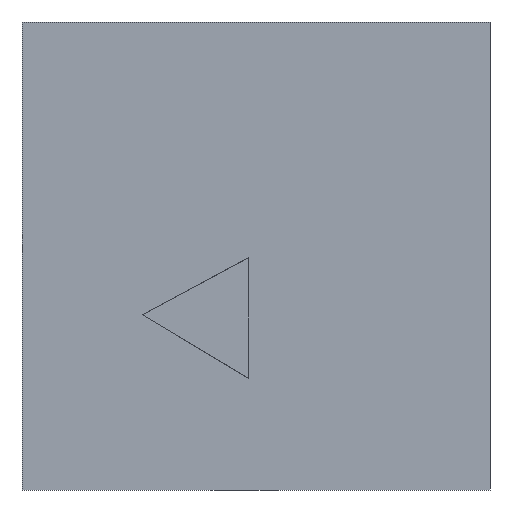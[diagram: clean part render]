
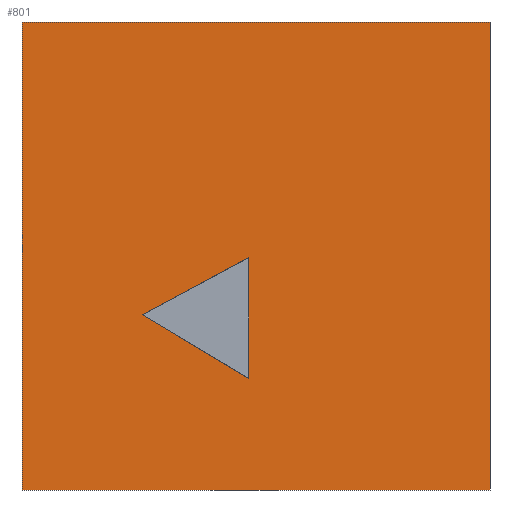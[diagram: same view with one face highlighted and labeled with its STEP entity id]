
A CAD part, front view. The second image highlights one B-rep face of the part: STEP entity #801.
In plain terms, the highlighted planar face has unit normal (0, -1, 0).
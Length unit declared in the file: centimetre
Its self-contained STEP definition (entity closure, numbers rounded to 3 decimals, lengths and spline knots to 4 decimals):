
#71 = LINE ( 'NONE', #314, #1082 ) ;
#74 = ORIENTED_EDGE ( 'NONE', *, *, #458, .T. ) ;
#83 = CARTESIAN_POINT ( 'NONE',  ( 484.0784, 0., 238.3716 ) ) ;
#153 = CARTESIAN_POINT ( 'NONE',  ( 484.0784, 0., 496.6692 ) ) ;
#163 = EDGE_LOOP ( 'NONE', ( #494, #596, #964 ) ) ;
#210 = CARTESIAN_POINT ( 'NONE',  ( 0., 0., 1000. ) ) ;
#247 = DIRECTION ( 'NONE',  ( 0., 0., 1. ) ) ;
#302 = CARTESIAN_POINT ( 'NONE',  ( 0., 0., 1000. ) ) ;
#314 = CARTESIAN_POINT ( 'NONE',  ( 1000., 0., 1000. ) ) ;
#325 = VECTOR ( 'NONE', #974, 100. ) ;
#375 = VERTEX_POINT ( 'NONE', #1326 ) ;
#399 = ORIENTED_EDGE ( 'NONE', *, *, #1158, .T. ) ;
#410 = CARTESIAN_POINT ( 'NONE',  ( 0., 0., 1000. ) ) ;
#458 = EDGE_CURVE ( 'NONE', #1270, #1190, #947, .T. ) ;
#494 = ORIENTED_EDGE ( 'NONE', *, *, #717, .F. ) ;
#518 = ORIENTED_EDGE ( 'NONE', *, *, #703, .F. ) ;
#526 = LINE ( 'NONE', #410, #692 ) ;
#596 = ORIENTED_EDGE ( 'NONE', *, *, #1405, .F. ) ;
#602 = VECTOR ( 'NONE', #1051, 100. ) ;
#640 = DIRECTION ( 'NONE',  ( 0., 1., 0. ) ) ;
#642 = VERTEX_POINT ( 'NONE', #153 ) ;
#661 = LINE ( 'NONE', #1217, #897 ) ;
#692 = VECTOR ( 'NONE', #966, 100. ) ;
#703 = EDGE_CURVE ( 'NONE', #783, #375, #1166, .T. ) ;
#717 = EDGE_CURVE ( 'NONE', #642, #904, #1396, .T. ) ;
#731 = CARTESIAN_POINT ( 'NONE',  ( 0., 0., 0. ) ) ;
#738 = AXIS2_PLACEMENT_3D ( 'NONE', #210, #640, #1081 ) ;
#739 = PLANE ( 'NONE',  #738 ) ;
#749 = CARTESIAN_POINT ( 'NONE',  ( 1000., 0., 0. ) ) ;
#783 = VERTEX_POINT ( 'NONE', #302 ) ;
#801 = ADVANCED_FACE ( 'NONE', ( #847, #1275 ), #739, .F. ) ;
#847 = FACE_BOUND ( 'NONE', #163, .T. ) ;
#851 = CARTESIAN_POINT ( 'NONE',  ( 256.4103, 0., 374.4068 ) ) ;
#857 = LINE ( 'NONE', #851, #602 ) ;
#871 = CARTESIAN_POINT ( 'NONE',  ( 256.4103, 0., 374.4068 ) ) ;
#897 = VECTOR ( 'NONE', #247, 100. ) ;
#901 = ORIENTED_EDGE ( 'NONE', *, *, #1260, .F. ) ;
#904 = VERTEX_POINT ( 'NONE', #871 ) ;
#947 = LINE ( 'NONE', #731, #1036 ) ;
#953 = CARTESIAN_POINT ( 'NONE',  ( 484.0784, 0., 496.6692 ) ) ;
#964 = ORIENTED_EDGE ( 'NONE', *, *, #1222, .F. ) ;
#966 = DIRECTION ( 'NONE',  ( 0., 0., -1. ) ) ;
#974 = DIRECTION ( 'NONE',  ( 1., 0., 0. ) ) ;
#1036 = VECTOR ( 'NONE', #1376, 100. ) ;
#1051 = DIRECTION ( 'NONE',  ( 0.858, 0., -0.513 ) ) ;
#1081 = DIRECTION ( 'NONE',  ( 0., 0., 1. ) ) ;
#1082 = VECTOR ( 'NONE', #1183, 100. ) ;
#1154 = VERTEX_POINT ( 'NONE', #83 ) ;
#1158 = EDGE_CURVE ( 'NONE', #783, #1270, #526, .T. ) ;
#1166 = LINE ( 'NONE', #1286, #325 ) ;
#1169 = VECTOR ( 'NONE', #1402, 100. ) ;
#1183 = DIRECTION ( 'NONE',  ( 0., 0., -1. ) ) ;
#1190 = VERTEX_POINT ( 'NONE', #749 ) ;
#1217 = CARTESIAN_POINT ( 'NONE',  ( 484.0784, 0., 238.3716 ) ) ;
#1222 = EDGE_CURVE ( 'NONE', #904, #1154, #857, .T. ) ;
#1260 = EDGE_CURVE ( 'NONE', #375, #1190, #71, .T. ) ;
#1268 = CARTESIAN_POINT ( 'NONE',  ( 0., 0., 0. ) ) ;
#1270 = VERTEX_POINT ( 'NONE', #1268 ) ;
#1272 = EDGE_LOOP ( 'NONE', ( #74, #901, #518, #399 ) ) ;
#1275 = FACE_OUTER_BOUND ( 'NONE', #1272, .T. ) ;
#1286 = CARTESIAN_POINT ( 'NONE',  ( 0., 0., 1000. ) ) ;
#1326 = CARTESIAN_POINT ( 'NONE',  ( 1000., 0., 1000. ) ) ;
#1376 = DIRECTION ( 'NONE',  ( 1., 0., 0. ) ) ;
#1396 = LINE ( 'NONE', #953, #1169 ) ;
#1402 = DIRECTION ( 'NONE',  ( -0.881, 0., -0.473 ) ) ;
#1405 = EDGE_CURVE ( 'NONE', #1154, #642, #661, .T. ) ;
